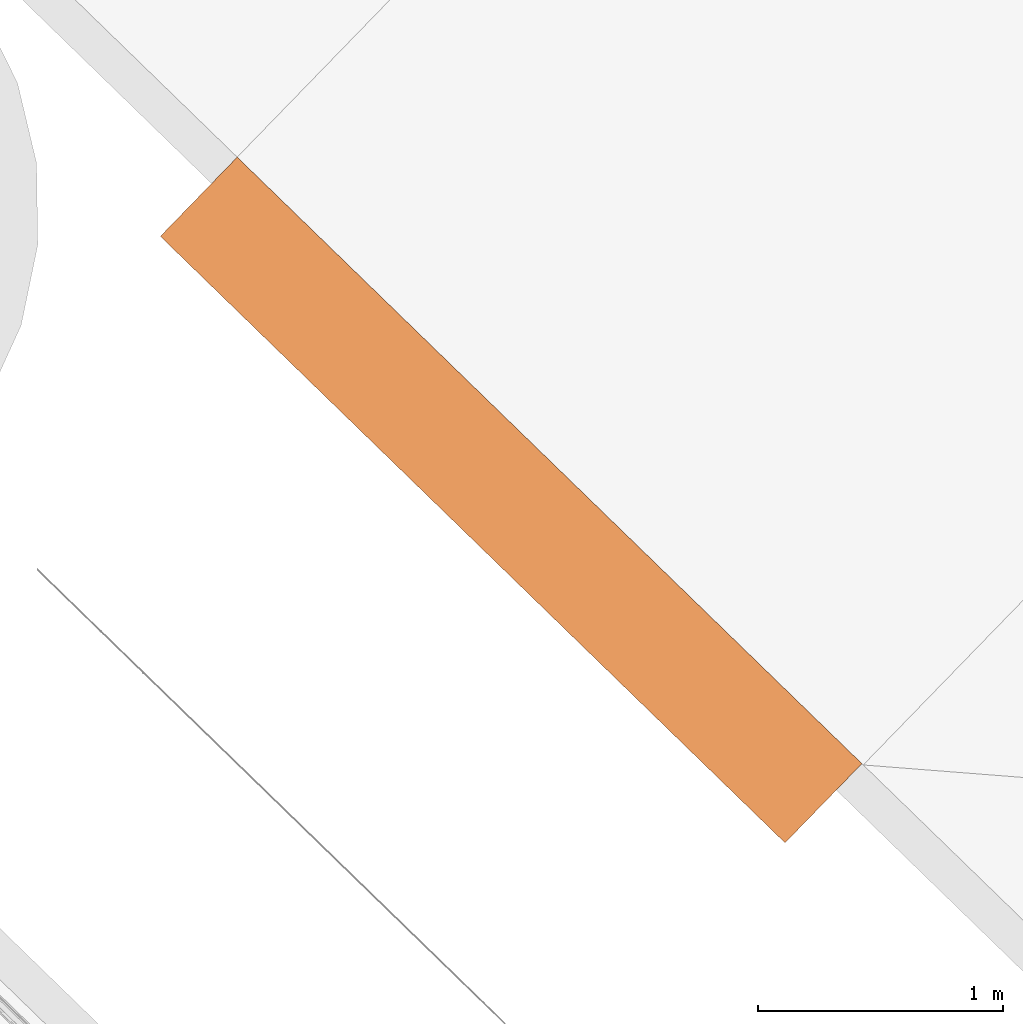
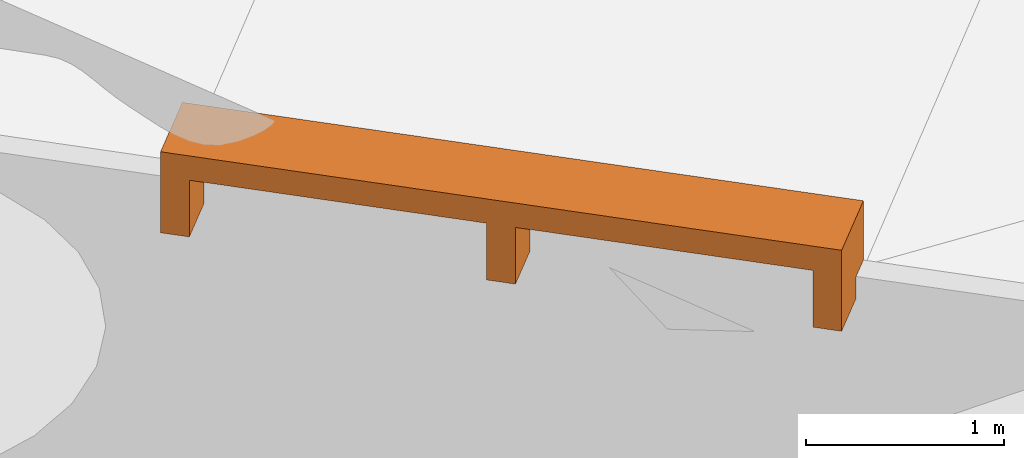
# One storey, part 34 of 37: 1 proxy.
"""IFC2X3 building model written with IfcOpenShell, lengths in centimetres."""

from ifc_helpers import new_model, entity, si_unit, converted_unit, derived_unit, direction, frame, origin, place, context, subcontext, project, spatial, faceted_brep, source, transform, mapped, type_object, type_shapes, element, save


model = new_model("IFC2X3")

# Units and contexts
model_context = context("Model", 3, precision=0.001, world=origin(), true_north=direction((0.717475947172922, 0.696583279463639)))
body_context = subcontext(model_context, "Body", "Model", "MODEL_VIEW")
ifc_project = project(units=[si_unit("LENGTHUNIT", "METRE", prefix="CENTI"), si_unit("AREAUNIT", "SQUARE_METRE"), si_unit("VOLUMEUNIT", "CUBIC_METRE"), converted_unit("PLANEANGLEUNIT", "DEGREE", entity("IfcRatioMeasure", 0.0174532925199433), si_unit("PLANEANGLEUNIT", "RADIAN"), dimensions=[0, 0, 0, 0, 0, 0, 0]), si_unit("MASSUNIT", "GRAM", prefix="KILO"), derived_unit("MASSDENSITYUNIT", [(si_unit("MASSUNIT", "GRAM", prefix="KILO"), 1), (si_unit("LENGTHUNIT", "METRE"), -3)]), si_unit("TIMEUNIT", "SECOND"), si_unit("FREQUENCYUNIT", "HERTZ"), si_unit("THERMODYNAMICTEMPERATUREUNIT", "DEGREE_CELSIUS"), derived_unit("THERMALTRANSMITTANCEUNIT", [(si_unit("MASSUNIT", "GRAM", prefix="KILO"), 1), (si_unit("THERMODYNAMICTEMPERATUREUNIT", "KELVIN"), -1), (si_unit("TIMEUNIT", "SECOND"), -3)]), derived_unit("VOLUMETRICFLOWRATEUNIT", [(si_unit("LENGTHUNIT", "METRE"), 3), (si_unit("TIMEUNIT", "SECOND"), -1)]), si_unit("ELECTRICCURRENTUNIT", "AMPERE"), si_unit("ELECTRICVOLTAGEUNIT", "VOLT"), si_unit("POWERUNIT", "WATT"), si_unit("FORCEUNIT", "NEWTON", prefix="KILO"), si_unit("ILLUMINANCEUNIT", "LUX"), si_unit("LUMINOUSFLUXUNIT", "LUMEN"), si_unit("LUMINOUSINTENSITYUNIT", "CANDELA"), derived_unit("USERDEFINED", [(si_unit("MASSUNIT", "GRAM", prefix="KILO"), -1), (si_unit("LENGTHUNIT", "METRE"), -2), (si_unit("TIMEUNIT", "SECOND"), 3), (si_unit("LUMINOUSFLUXUNIT", "LUMEN"), 1)]), derived_unit("LINEARVELOCITYUNIT", [(si_unit("LENGTHUNIT", "METRE"), 1), (si_unit("TIMEUNIT", "SECOND"), -1)]), si_unit("PRESSUREUNIT", "PASCAL"), derived_unit("USERDEFINED", [(si_unit("LENGTHUNIT", "METRE"), -2), (si_unit("MASSUNIT", "GRAM", prefix="KILO"), 1), (si_unit("TIMEUNIT", "SECOND"), -2)])], contexts=[model_context])

# Site, building, storey
site_placement = place(None, frame((0.0, 0.0, 0.0), z_axis=(0.0, 0.0, 1.0), x_axis=(0.696583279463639, 0.717475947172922, 0.0)))
site = spatial("IfcSite", under=ifc_project, at=site_placement, Name="Surface", CompositionType="ELEMENT")
building_placement = place(site_placement, origin())
building = spatial("IfcBuilding", under=site, at=building_placement, CompositionType="ELEMENT")
storey_placement = place(building_placement, origin())
storey = spatial("IfcBuildingStorey", under=building, at=storey_placement, Name="Nivel 0.00", CompositionType="ELEMENT", Elevation=0.0)

# Proxy
building_element_proxy_type = type_object("IfcBuildingElementProxyType", Name="ARQ_BANCA_PADRES", PredefinedType="NOTDEFINED")
shared_shape = source(origin(), body_context, "Body", "Brep", [
    faceted_brep([(177.5, -45.0, 40.0), (-177.5, -45.0, 40.0), (-177.5, -45.0, 3.49999999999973), (-162.5, -45.0, 3.49999999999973), (-162.5, -45.0, 25.0), (-7.5, -45.0, 25.0), (-7.5, -45.0, 3.49999999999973), (7.5, -45.0, 3.49999999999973), (7.5, -45.0, 25.0), (162.5, -45.0, 25.0), (162.5, -45.0, 3.49999999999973), (177.5, -45.0, 3.49999999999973), (177.5, 0.0, 40.0), (177.5, 0.0, -10.0), (162.5, 0.0, -10.0), (162.5, 0.0, 25.0), (7.5, 0.0, 25.0), (7.5, 0.0, -10.0), (-7.5, 0.0, -10.0), (-7.5, 0.0, 25.0), (-162.5, 0.0, 25.0), (-162.5, 0.0, -10.0), (-177.5, 0.0, -10.0), (-177.5, 0.0, 40.0), (-177.5, -30.0, -10.0), (-177.5, -30.0, 3.49999999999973), (-162.5, -30.0, -10.0), (-162.5, -30.0, 3.49999999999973), (-7.5, -30.0, -10.0), (-7.5, -30.0, 3.49999999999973), (7.5, -30.0, -10.0), (7.5, -30.0, 3.49999999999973), (162.5, -30.0, -10.0), (162.5, -30.0, 3.49999999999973), (177.5, -30.0, -10.0), (177.5, -30.0, 3.49999999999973)], [[[0, 1, 2, 3, 4, 5, 6, 7, 8, 9, 10, 11]], [[12, 13, 14, 15, 16, 17, 18, 19, 20, 21, 22, 23]], [[1, 0, 12, 23]], [[23, 22, 24, 25, 2, 1]], [[22, 21, 26, 24]], [[21, 20, 4, 3, 27, 26]], [[5, 4, 20, 19]], [[19, 18, 28, 29, 6, 5]], [[18, 17, 30, 28]], [[17, 16, 8, 7, 31, 30]], [[9, 8, 16, 15]], [[15, 14, 32, 33, 10, 9]], [[14, 13, 34, 32]], [[13, 12, 0, 11, 35, 34]], [[33, 35, 11, 10]], [[35, 33, 32, 34]], [[31, 29, 28, 30]], [[27, 25, 24, 26]], [[29, 31, 7, 6]], [[25, 27, 3, 2]]]),
])
type_shapes(building_element_proxy_type, [shared_shape])
proxy_placement = place(storey_placement, frame((-1950.75707802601, -811.466476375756, 146.542687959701), z_axis=(0.0, 0.0, 1.0), x_axis=(0.0, 1.0, 0.0)))
element("IfcBuildingElementProxy", 1, at=proxy_placement, inside=storey, type_object=building_element_proxy_type, Name="ARQ_BANCA_PADRES:ARQ_BANCA_PADRES", ObjectType="ARQ_BANCA_PADRES", context=body_context, shape_type="MappedRepresentation", body=[
    mapped(shared_shape, transform((0.0, 0.0, 0.0), scale=1.0)),
])

save(model, "model.ifc")
